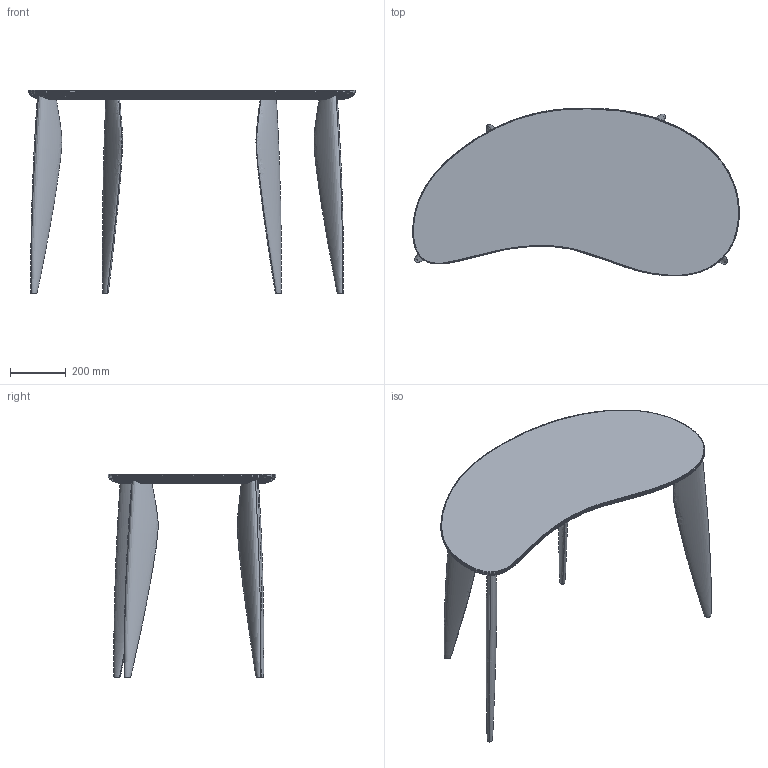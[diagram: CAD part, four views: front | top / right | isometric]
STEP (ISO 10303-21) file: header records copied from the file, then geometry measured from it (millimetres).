
FILE_DESCRIPTION(/* description */ (''),/* implementation_level */ '2;1');
FILE_NAME(/* name */ 'Feve Desk_Ferm Living_3D',/* time_stamp */ '2021-09-02T12:57:30+02:00',/* author */ (''),/* organization */ (''),/* preprocessor_version */ 'ST-DEVELOPER v16.5',/* originating_system */ '',/* authorisation */ '');
FILE_SCHEMA (('CONFIG_CONTROL_DESIGN'));
Length unit declared in the file: millimetre
Products named in the file (1): Document
Bounding box: 1171.2 x 602.42 x 730 mm (x, y, z)
Volume: 23334542.8 mm3; surface area: 1669764.4 mm2
Topology: 5 solids, 5 shells, 217 faces, 511 edges, 304 vertices
Faces by surface type: bspline 207, plane 10
Entity records: 165675 total; most frequent: CARTESIAN_POINT 162339, ORIENTED_EDGE 1022, EDGE_CURVE 511, B_SPLINE_CURVE_WITH_KNOTS 511, VERTEX_POINT 304, ADVANCED_FACE 217, FACE_OUTER_BOUND 217, EDGE_LOOP 217
